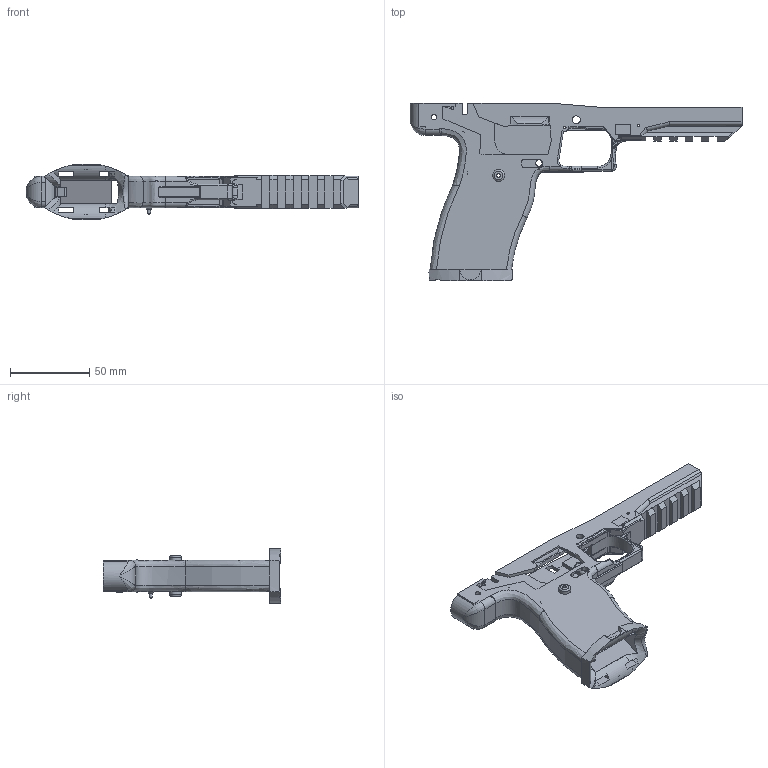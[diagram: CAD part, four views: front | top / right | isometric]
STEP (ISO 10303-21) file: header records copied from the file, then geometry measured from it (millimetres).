
FILE_DESCRIPTION(/* description */ (''),/* implementation_level */ '2;1');
FILE_NAME(/* name */ 'C:/Users/aleha/Desktop/Big-Point Final v1.step',/* time_stamp */ '2020-10-31T21:36:17-04:00',/* author */ (''),/* organization */ (''),/* preprocessor_version */ 'ST-DEVELOPER v18.1',/* originating_system */ 'Autodesk Translation Framework v9.3.0.1241',/* authorisation */ '');
FILE_SCHEMA (('AUTOMOTIVE_DESIGN { 1 0 10303 214 3 1 1 }'));
Length unit declared in the file: millimetre
Products named in the file (1): Big-Point Final
Bounding box: 210 x 112.5 x 35 mm (x, y, z)
Volume: 96898.1 mm3; surface area: 48146.1 mm2
Topology: 1 solids, 2 shells, 502 faces, 1467 edges, 957 vertices
Faces by surface type: plane 294, cylinder 102, bspline 94, torus 10, cone 2
Full cylindrical faces by diameter (mm): 1.5 x5, 1.75 x1, 2 x1, 2.4 x2, 3 x4, 3.5 x2, 3.7 x1, 4 x1, 5 x2, 6.5 x1, 6.75 x1, 7.5 x2
Entity records: 24858 total; most frequent: CARTESIAN_POINT 12198, ORIENTED_EDGE 2910, DIRECTION 2245, EDGE_CURVE 1455, VERTEX_POINT 957, LINE 869, VECTOR 869, AXIS2_PLACEMENT_3D 688
